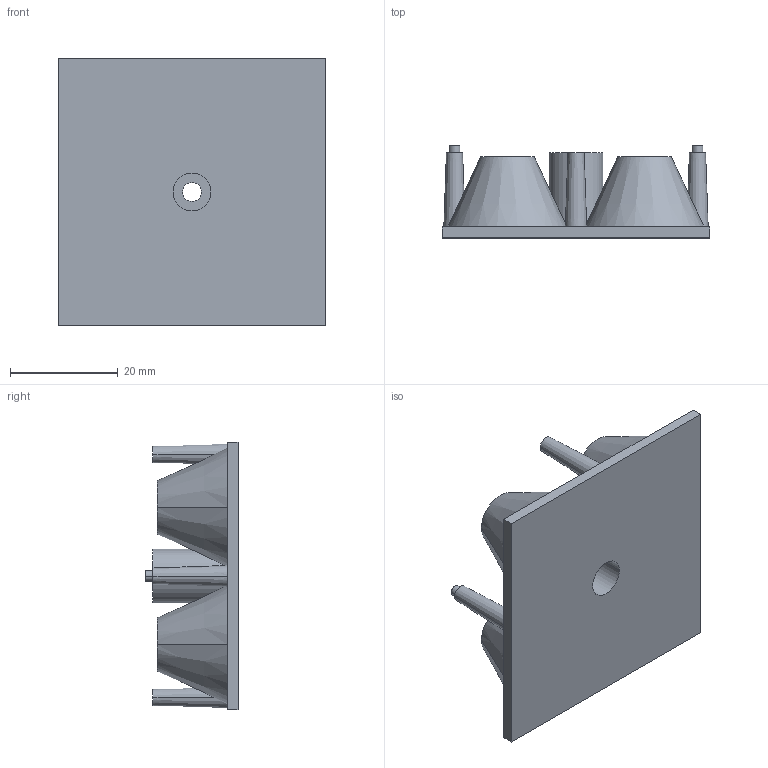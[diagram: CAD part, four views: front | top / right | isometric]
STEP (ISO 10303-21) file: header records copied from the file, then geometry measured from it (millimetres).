
FILE_DESCRIPTION((''),'2;1');
FILE_NAME('PRT0001','2023-03-04T',('Administrator'),(''),'PRO/ENGINEER BY PARAMETRIC TECHNOLOGY CORPORATION, 2007090','PRO/ENGINEER BY PARAMETRIC TECHNOLOGY CORPORATION, 2007090','');
FILE_SCHEMA(('CONFIG_CONTROL_DESIGN'));
Length unit declared in the file: millimetre
Products named in the file (1): PRT0001
Bounding box: 49.6 x 17.05 x 49.5 mm (x, y, z)
Volume: 15407.5 mm3; surface area: 8989.7 mm2
Topology: 1 solids, 1 shells, 56 faces, 114 edges, 76 vertices
Faces by surface type: cone 24, plane 22, cylinder 10
Entity records: 1548 total; most frequent: DIRECTION 294, CARTESIAN_POINT 246, ORIENTED_EDGE 228, AXIS2_PLACEMENT_3D 124, EDGE_CURVE 114, VERTEX_POINT 76, EDGE_LOOP 74, CIRCLE 68
